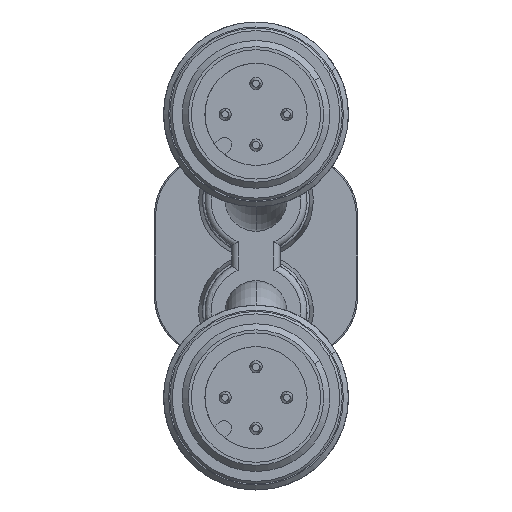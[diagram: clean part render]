
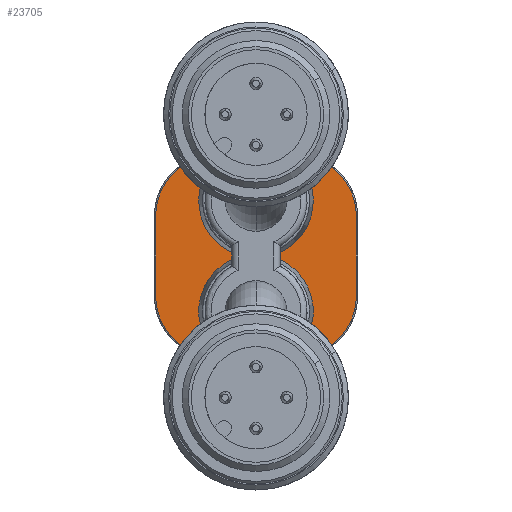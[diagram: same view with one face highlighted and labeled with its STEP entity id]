
A CAD part, front view. The second image highlights one B-rep face of the part: STEP entity #23705.
In plain terms, the highlighted planar face has unit normal (0, -1, 0).
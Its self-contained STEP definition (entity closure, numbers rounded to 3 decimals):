
#8 = DIRECTION ( 'NONE',  ( 0., -1., 0. ) ) ;
#33 = LINE ( 'NONE', #2095, #32135 ) ;
#747 = EDGE_CURVE ( 'NONE', #10318, #26606, #17024, .T. ) ;
#851 = DIRECTION ( 'NONE',  ( 0., 0., 1. ) ) ;
#1412 = ORIENTED_EDGE ( 'NONE', *, *, #33152, .T. ) ;
#1767 = LINE ( 'NONE', #31772, #17332 ) ;
#1769 = CARTESIAN_POINT ( 'NONE',  ( 1.95, -30.3, -0.278 ) ) ;
#1944 = VERTEX_POINT ( 'NONE', #29746 ) ;
#2095 = CARTESIAN_POINT ( 'NONE',  ( -1.95, -30.3, -2. ) ) ;
#2241 = ORIENTED_EDGE ( 'NONE', *, *, #12501, .T. ) ;
#2519 = AXIS2_PLACEMENT_3D ( 'NONE', #10574, #32297, #13708 ) ;
#2529 = CIRCLE ( 'NONE', #17665, 9.5 ) ;
#2805 = DIRECTION ( 'NONE',  ( 0., 0., 1. ) ) ;
#3218 = CARTESIAN_POINT ( 'NONE',  ( 0., -30.3, 4.5 ) ) ;
#4113 = CARTESIAN_POINT ( 'NONE',  ( -6.712, -30.3, 6.723 ) ) ;
#4217 = ORIENTED_EDGE ( 'NONE', *, *, #17264, .T. ) ;
#4334 = EDGE_CURVE ( 'NONE', #22358, #8020, #38189, .T. ) ;
#4867 = VERTEX_POINT ( 'NONE', #14465 ) ;
#5079 = AXIS2_PLACEMENT_3D ( 'NONE', #3218, #24974, #6377 ) ;
#5370 = VERTEX_POINT ( 'NONE', #31255 ) ;
#5555 = AXIS2_PLACEMENT_3D ( 'NONE', #8443, #30130, #11541 ) ;
#6377 = DIRECTION ( 'NONE',  ( 0., 0., 1. ) ) ;
#6898 = ORIENTED_EDGE ( 'NONE', *, *, #24110, .T. ) ;
#6923 = CARTESIAN_POINT ( 'NONE',  ( 1.95, -30.3, 0.278 ) ) ;
#7154 = CARTESIAN_POINT ( 'NONE',  ( -1.95, -30.3, -0.278 ) ) ;
#7255 = ORIENTED_EDGE ( 'NONE', *, *, #8761, .F. ) ;
#7652 = DIRECTION ( 'NONE',  ( 0., 0., 1. ) ) ;
#8020 = VERTEX_POINT ( 'NONE', #6923 ) ;
#8240 = ORIENTED_EDGE ( 'NONE', *, *, #4334, .F. ) ;
#8443 = CARTESIAN_POINT ( 'NONE',  ( 0., -30.3, 0. ) ) ;
#8461 = CARTESIAN_POINT ( 'NONE',  ( 8.15, -30.3, 3.255 ) ) ;
#8509 = EDGE_LOOP ( 'NONE', ( #21982, #25008, #7255, #20130, #8240 ) ) ;
#8756 = VECTOR ( 'NONE', #39032, 1000. ) ;
#8761 = EDGE_CURVE ( 'NONE', #14067, #1944, #27622, .T. ) ;
#9261 = AXIS2_PLACEMENT_3D ( 'NONE', #32345, #26245, #7652 ) ;
#9503 = CIRCLE ( 'NONE', #5079, 4.651 ) ;
#10318 = VERTEX_POINT ( 'NONE', #21301 ) ;
#10474 = VERTEX_POINT ( 'NONE', #25779 ) ;
#10574 = CARTESIAN_POINT ( 'NONE',  ( -3.25, -30.3, 3.255 ) ) ;
#11138 = VERTEX_POINT ( 'NONE', #8461 ) ;
#11308 = CARTESIAN_POINT ( 'NONE',  ( 0., -30.3, 4.5 ) ) ;
#11403 = EDGE_CURVE ( 'NONE', #8020, #14067, #9503, .T. ) ;
#11541 = DIRECTION ( 'NONE',  ( 0., 0., 1. ) ) ;
#11663 = VERTEX_POINT ( 'NONE', #29799 ) ;
#11766 = CARTESIAN_POINT ( 'NONE',  ( 0., -30.3, 0. ) ) ;
#11804 = CARTESIAN_POINT ( 'NONE',  ( 3.25, -30.3, 3.255 ) ) ;
#12501 = EDGE_CURVE ( 'NONE', #11663, #33887, #34179, .T. ) ;
#12878 = CIRCLE ( 'NONE', #35815, 4.651 ) ;
#13708 = DIRECTION ( 'NONE',  ( 0., 0., 1. ) ) ;
#14067 = VERTEX_POINT ( 'NONE', #32708 ) ;
#14439 = DIRECTION ( 'NONE',  ( 0., 0., 1. ) ) ;
#14465 = CARTESIAN_POINT ( 'NONE',  ( 6.712, -30.3, -6.723 ) ) ;
#14907 = DIRECTION ( 'NONE',  ( 0., 0., 1. ) ) ;
#14948 = DIRECTION ( 'NONE',  ( 0., 0., 1. ) ) ;
#15209 = EDGE_CURVE ( 'NONE', #1944, #33435, #33, .T. ) ;
#16296 = DIRECTION ( 'NONE',  ( 0., 0., 1. ) ) ;
#17024 = LINE ( 'NONE', #26451, #8756 ) ;
#17233 = CARTESIAN_POINT ( 'NONE',  ( 3.25, -30.3, -3.255 ) ) ;
#17264 = EDGE_CURVE ( 'NONE', #5370, #11663, #20056, .T. ) ;
#17332 = VECTOR ( 'NONE', #16296, 1000. ) ;
#17665 = AXIS2_PLACEMENT_3D ( 'NONE', #11766, #33488, #14907 ) ;
#18201 = ORIENTED_EDGE ( 'NONE', *, *, #22863, .T. ) ;
#18467 = ORIENTED_EDGE ( 'NONE', *, *, #25547, .T. ) ;
#18659 = CARTESIAN_POINT ( 'NONE',  ( -3.25, -30.3, -3.255 ) ) ;
#18719 = AXIS2_PLACEMENT_3D ( 'NONE', #39986, #21414, #2805 ) ;
#19494 = DIRECTION ( 'NONE',  ( 0., -1., 0. ) ) ;
#20056 = CIRCLE ( 'NONE', #18719, 9.5 ) ;
#20090 = CIRCLE ( 'NONE', #2519, 4.9 ) ;
#20111 = VERTEX_POINT ( 'NONE', #25128 ) ;
#20130 = ORIENTED_EDGE ( 'NONE', *, *, #11403, .F. ) ;
#20353 = DIRECTION ( 'NONE',  ( 0., 0., 1. ) ) ;
#20721 = CIRCLE ( 'NONE', #33142, 4.9 ) ;
#21301 = CARTESIAN_POINT ( 'NONE',  ( -8.15, -30.3, 3.255 ) ) ;
#21414 = DIRECTION ( 'NONE',  ( 0., -1., 0. ) ) ;
#21769 = DIRECTION ( 'NONE',  ( 0., 0., 1. ) ) ;
#21982 = ORIENTED_EDGE ( 'NONE', *, *, #39594, .F. ) ;
#22358 = VERTEX_POINT ( 'NONE', #1769 ) ;
#22678 = EDGE_CURVE ( 'NONE', #10474, #11138, #1767, .T. ) ;
#22863 = EDGE_CURVE ( 'NONE', #4867, #10474, #20721, .T. ) ;
#23048 = AXIS2_PLACEMENT_3D ( 'NONE', #11804, #33532, #14948 ) ;
#23109 = FACE_OUTER_BOUND ( 'NONE', #30925, .T. ) ;
#23112 = PLANE ( 'NONE',  #9261 ) ;
#23705 = ADVANCED_FACE ( 'NONE', ( #23109, #30368 ), #23112, .T. ) ;
#23835 = DIRECTION ( 'NONE',  ( 0., 0., -1. ) ) ;
#24110 = EDGE_CURVE ( 'NONE', #11138, #5370, #37148, .T. ) ;
#24974 = DIRECTION ( 'NONE',  ( 0., -1., 0. ) ) ;
#25008 = ORIENTED_EDGE ( 'NONE', *, *, #15209, .F. ) ;
#25128 = CARTESIAN_POINT ( 'NONE',  ( -6.712, -30.3, -6.723 ) ) ;
#25547 = EDGE_CURVE ( 'NONE', #33887, #10318, #20090, .T. ) ;
#25779 = CARTESIAN_POINT ( 'NONE',  ( 8.15, -30.3, -3.255 ) ) ;
#26008 = ORIENTED_EDGE ( 'NONE', *, *, #22678, .T. ) ;
#26101 = CARTESIAN_POINT ( 'NONE',  ( 1.95, -30.3, -2. ) ) ;
#26245 = DIRECTION ( 'NONE',  ( 0., -1., 0. ) ) ;
#26451 = CARTESIAN_POINT ( 'NONE',  ( -8.15, -30.3, 0. ) ) ;
#26606 = VERTEX_POINT ( 'NONE', #30977 ) ;
#27388 = AXIS2_PLACEMENT_3D ( 'NONE', #11308, #33013, #14439 ) ;
#27622 = CIRCLE ( 'NONE', #27388, 4.651 ) ;
#28254 = AXIS2_PLACEMENT_3D ( 'NONE', #18659, #8, #21769 ) ;
#29283 = ORIENTED_EDGE ( 'NONE', *, *, #747, .T. ) ;
#29746 = CARTESIAN_POINT ( 'NONE',  ( -1.95, -30.3, 0.278 ) ) ;
#29799 = CARTESIAN_POINT ( 'NONE',  ( 0., -30.3, 9.5 ) ) ;
#29998 = EDGE_CURVE ( 'NONE', #26606, #20111, #34427, .T. ) ;
#30130 = DIRECTION ( 'NONE',  ( 0., -1., 0. ) ) ;
#30368 = FACE_BOUND ( 'NONE', #8509, .T. ) ;
#30925 = EDGE_LOOP ( 'NONE', ( #1412, #18201, #26008, #6898, #4217, #2241, #18467, #29283, #37430 ) ) ;
#30977 = CARTESIAN_POINT ( 'NONE',  ( -8.15, -30.3, -3.255 ) ) ;
#31255 = CARTESIAN_POINT ( 'NONE',  ( 6.712, -30.3, 6.723 ) ) ;
#31772 = CARTESIAN_POINT ( 'NONE',  ( 8.15, -30.3, 0. ) ) ;
#32135 = VECTOR ( 'NONE', #23835, 1000. ) ;
#32297 = DIRECTION ( 'NONE',  ( 0., -1., 0. ) ) ;
#32343 = DIRECTION ( 'NONE',  ( 0., 0., 1. ) ) ;
#32345 = CARTESIAN_POINT ( 'NONE',  ( 0., -30.3, 0. ) ) ;
#32708 = CARTESIAN_POINT ( 'NONE',  ( 0., -30.3, 9.151 ) ) ;
#33013 = DIRECTION ( 'NONE',  ( 0., -1., 0. ) ) ;
#33142 = AXIS2_PLACEMENT_3D ( 'NONE', #17233, #38926, #20353 ) ;
#33152 = EDGE_CURVE ( 'NONE', #20111, #4867, #2529, .T. ) ;
#33435 = VERTEX_POINT ( 'NONE', #7154 ) ;
#33488 = DIRECTION ( 'NONE',  ( 0., -1., 0. ) ) ;
#33532 = DIRECTION ( 'NONE',  ( 0., -1., 0. ) ) ;
#33887 = VERTEX_POINT ( 'NONE', #4113 ) ;
#34179 = CIRCLE ( 'NONE', #5555, 9.5 ) ;
#34427 = CIRCLE ( 'NONE', #28254, 4.9 ) ;
#35815 = AXIS2_PLACEMENT_3D ( 'NONE', #38075, #19494, #851 ) ;
#37148 = CIRCLE ( 'NONE', #23048, 4.9 ) ;
#37209 = VECTOR ( 'NONE', #32343, 1000. ) ;
#37430 = ORIENTED_EDGE ( 'NONE', *, *, #29998, .T. ) ;
#38075 = CARTESIAN_POINT ( 'NONE',  ( 0., -30.3, -4.5 ) ) ;
#38189 = LINE ( 'NONE', #26101, #37209 ) ;
#38926 = DIRECTION ( 'NONE',  ( 0., -1., 0. ) ) ;
#39032 = DIRECTION ( 'NONE',  ( 0., 0., -1. ) ) ;
#39594 = EDGE_CURVE ( 'NONE', #33435, #22358, #12878, .T. ) ;
#39986 = CARTESIAN_POINT ( 'NONE',  ( 0., -30.3, 0. ) ) ;
